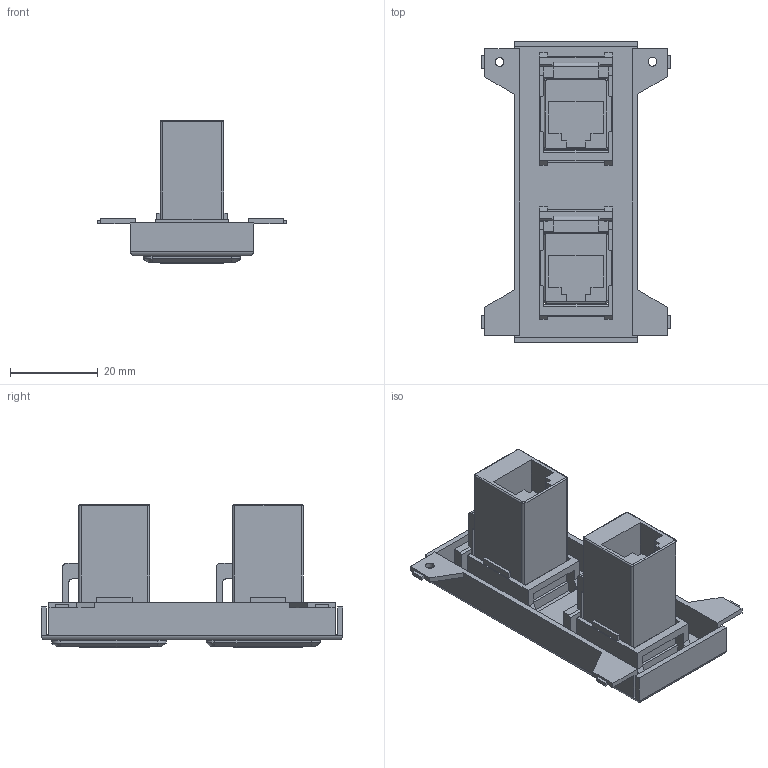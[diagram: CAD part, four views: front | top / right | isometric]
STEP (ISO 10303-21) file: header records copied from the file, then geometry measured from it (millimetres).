
FILE_DESCRIPTION(('FreeCAD Model'),'2;1');
FILE_NAME('Open CASCADE Shape Model','2026-09-15T11:42:42',(''),(''), 'Open CASCADE STEP processor 7.8','FreeCAD','Unknown');
FILE_SCHEMA(('AUTOMOTIVE_DESIGN { 1 0 10303 214 1 1 1 1 }'));
Length unit declared in the file: millimetre
Products named in the file (7): BTK_2SIC6_BK; FA-396-8-C6-BK; P_201796; P-201796; 3013BUS12xx_SD; 3013BUS12xx_SD001; FA-396-8-C6-BK001
Assembly tree (6 placements, depth 3):
  BTK_2SIC6_BK
    FA-396-8-C6-BK
    P_201796
      P-201796
      3013BUS12xx_SD
      3013BUS12xx_SD001
    FA-396-8-C6-BK001
Bounding box: 43.2 x 68.7 x 32.5 mm (x, y, z)
Volume: 16591.1 mm3; surface area: 17081.9 mm2
Topology: 5 solids, 5 shells, 361 faces, 991 edges, 638 vertices
Faces by surface type: plane 169, bspline 134, cylinder 42, revolution 16
Full cylindrical faces by diameter (mm): 2 x2
Entity records: 13120 total; most frequent: CARTESIAN_POINT 4935, ORIENTED_EDGE 1966, DIRECTION 1139, EDGE_CURVE 983, VERTEX_POINT 638, LINE 495, VECTOR 495, B_SPLINE_CURVE_WITH_KNOTS 408
